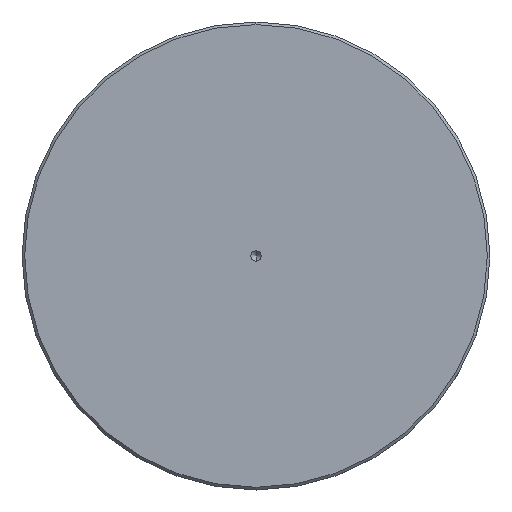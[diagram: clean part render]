
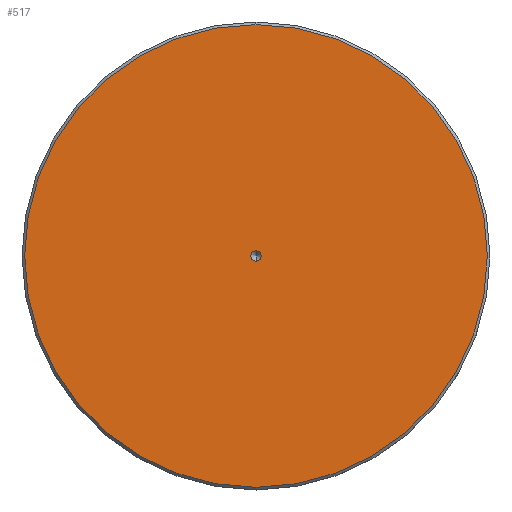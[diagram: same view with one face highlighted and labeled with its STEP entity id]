
A CAD part, top view. The second image highlights one B-rep face of the part: STEP entity #517.
In plain terms, the highlighted free-form (B-spline) face has degree [1, 1] with [2, 2] control points.
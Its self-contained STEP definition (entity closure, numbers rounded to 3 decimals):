
#25=CARTESIAN_POINT('',(0.,0.,50.));
#26=DIRECTION('',(0.,0.,-1.));
#27=DIRECTION('',(0.,1.,0.));
#28=AXIS2_PLACEMENT_3D('',#25,#26,#27);
#38=CARTESIAN_POINT('',(0.,0.,50.));
#39=DIRECTION('',(0.,0.,1.));
#40=DIRECTION('',(0.,1.,0.));
#41=AXIS2_PLACEMENT_3D('',#38,#39,#40);
#43=CARTESIAN_POINT('',(0.,0.,50.));
#44=DIRECTION('',(0.,0.,-1.));
#45=DIRECTION('',(0.,1.,0.));
#46=AXIS2_PLACEMENT_3D('',#43,#44,#45);
#53=CARTESIAN_POINT('',(0.,0.,50.));
#54=DIRECTION('',(0.,0.,1.));
#55=DIRECTION('',(0.,1.,0.));
#56=AXIS2_PLACEMENT_3D('',#53,#54,#55);
#376=CARTESIAN_POINT('',(0.,1.,50.));
#378=VERTEX_POINT('',#376);
#384=CARTESIAN_POINT('',(0.,-1.,50.));
#385=VERTEX_POINT('',#384);
#412=CARTESIAN_POINT('',(0.,44.,50.));
#413=CARTESIAN_POINT('',(0.,-44.,50.));
#414=VERTEX_POINT('',#412);
#415=VERTEX_POINT('',#413);
#502=CARTESIAN_POINT('',(45.798,45.76,50.));
#503=CARTESIAN_POINT('',(-45.798,45.76,50.));
#504=CARTESIAN_POINT('',(45.798,-45.76,50.));
#505=CARTESIAN_POINT('',(-45.798,-45.76,50.));
#506=B_SPLINE_SURFACE_WITH_KNOTS('',1,1,((#502,#503),(#504,#505)),.UNSPECIFIED.,
.F.,.F.,.F.,(2,2),(2,2),(-45.76,45.76),(-45.798,45.798),
.UNSPECIFIED.);
#508=ORIENTED_EDGE('',*,*,#507,.T.);
#510=ORIENTED_EDGE('',*,*,#509,.F.);
#511=EDGE_LOOP('',(#508,#510));
#512=FACE_OUTER_BOUND('',#511,.F.);
#513=ORIENTED_EDGE('',*,*,#497,.T.);
#514=ORIENTED_EDGE('',*,*,#473,.F.);
#515=EDGE_LOOP('',(#513,#514));
#516=FACE_BOUND('',#515,.F.);
#517=ADVANCED_FACE('',(#512,#516),#506,.F.);
#29=CIRCLE('',#28,1.);
#42=CIRCLE('',#41,1.);
#47=CIRCLE('',#46,44.);
#57=CIRCLE('',#56,44.);
#473=EDGE_CURVE('',#378,#385,#29,.T.);
#497=EDGE_CURVE('',#378,#385,#42,.T.);
#507=EDGE_CURVE('',#414,#415,#47,.T.);
#509=EDGE_CURVE('',#414,#415,#57,.T.);
